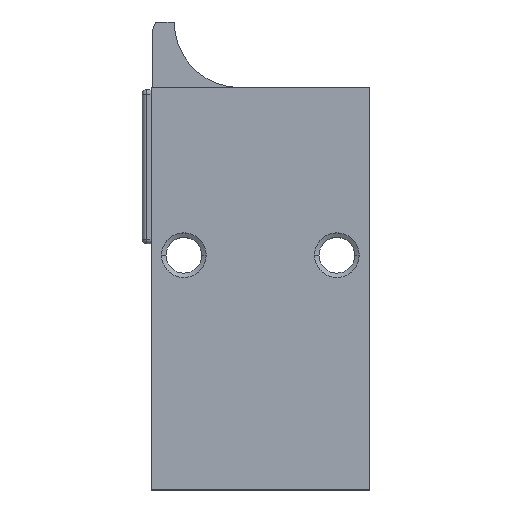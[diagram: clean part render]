
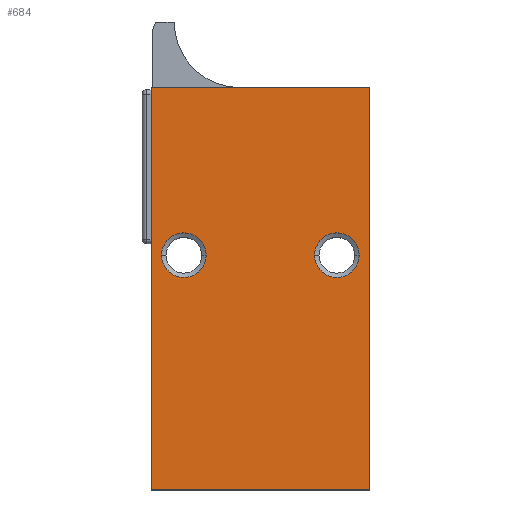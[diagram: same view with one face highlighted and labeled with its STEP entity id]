
A CAD part, top view. The second image highlights one B-rep face of the part: STEP entity #684.
In plain terms, the highlighted planar face has unit normal (0, 0, 1).
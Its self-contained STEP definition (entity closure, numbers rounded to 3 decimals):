
#26 = PLANE ( 'NONE',  #971 ) ;
#35 = CARTESIAN_POINT ( 'NONE',  ( 0., 92., 40. ) ) ;
#47 = DIRECTION ( 'NONE',  ( 0., -1., 0. ) ) ;
#56 = DIRECTION ( 'NONE',  ( 0., 0., -1. ) ) ;
#57 = DIRECTION ( 'NONE',  ( -1., 0., 0. ) ) ;
#64 = CARTESIAN_POINT ( 'NONE',  ( 0., 0., 40. ) ) ;
#280 = CARTESIAN_POINT ( 'NONE',  ( 0., 0., 40. ) ) ;
#327 = CARTESIAN_POINT ( 'NONE',  ( 12.6, 53.65, 40. ) ) ;
#370 = CARTESIAN_POINT ( 'NONE',  ( 50., 0., 40. ) ) ;
#380 = CARTESIAN_POINT ( 'NONE',  ( 47.6, 53.65, 40. ) ) ;
#416 = CARTESIAN_POINT ( 'NONE',  ( 2.4, 53.65, 40. ) ) ;
#497 = EDGE_CURVE ( 'NONE', #3406, #3649, #2737, .T. ) ;
#526 = EDGE_CURVE ( 'NONE', #3391, #3374, #2615, .T. ) ;
#545 = EDGE_CURVE ( 'NONE', #3649, #3406, #2735, .T. ) ;
#646 = EDGE_CURVE ( 'NONE', #3695, #3547, #3221, .T. ) ;
#677 = EDGE_CURVE ( 'NONE', #3374, #3794, #3856, .T. ) ;
#684 = ADVANCED_FACE ( 'NONE', ( #3872, #3873, #3879 ), #26, .F. ) ;
#800 = EDGE_LOOP ( 'NONE', ( #1298, #1386, #1375, #2451 ) ) ;
#862 = EDGE_LOOP ( 'NONE', ( #1539, #1493 ) ) ;
#884 = EDGE_CURVE ( 'NONE', #3547, #3695, #2602, .T. ) ;
#900 = AXIS2_PLACEMENT_3D ( 'NONE', #3676, #3790, #3848 ) ;
#913 = AXIS2_PLACEMENT_3D ( 'NONE', #3610, #3538, #3429 ) ;
#952 = AXIS2_PLACEMENT_3D ( 'NONE', #3510, #3640, #3397 ) ;
#971 = AXIS2_PLACEMENT_3D ( 'NONE', #35, #56, #57 ) ;
#1298 = ORIENTED_EDGE ( 'NONE', *, *, #677, .T. ) ;
#1351 = ORIENTED_EDGE ( 'NONE', *, *, #884, .F. ) ;
#1375 = ORIENTED_EDGE ( 'NONE', *, *, #1584, .T. ) ;
#1386 = ORIENTED_EDGE ( 'NONE', *, *, #2183, .T. ) ;
#1438 = AXIS2_PLACEMENT_3D ( 'NONE', #1845, #1844, #1840 ) ;
#1493 = ORIENTED_EDGE ( 'NONE', *, *, #497, .F. ) ;
#1539 = ORIENTED_EDGE ( 'NONE', *, *, #545, .F. ) ;
#1584 = EDGE_CURVE ( 'NONE', #3473, #3391, #1629, .T. ) ;
#1629 = LINE ( 'NONE', #1758, #1631 ) ;
#1631 = VECTOR ( 'NONE', #1769, 1000. ) ;
#1758 = CARTESIAN_POINT ( 'NONE',  ( 50., 0., 40. ) ) ;
#1769 = DIRECTION ( 'NONE',  ( 0., 1., 0. ) ) ;
#1840 = DIRECTION ( 'NONE',  ( 1., 0., 0. ) ) ;
#1844 = DIRECTION ( 'NONE',  ( 0., 0., 1. ) ) ;
#1845 = CARTESIAN_POINT ( 'NONE',  ( 7.5, 53.65, 40. ) ) ;
#1890 = CARTESIAN_POINT ( 'NONE',  ( 0., 0., 40. ) ) ;
#1891 = DIRECTION ( 'NONE',  ( 1., 0., 0. ) ) ;
#2048 = CARTESIAN_POINT ( 'NONE',  ( 37.4, 53.65, 40. ) ) ;
#2061 = CARTESIAN_POINT ( 'NONE',  ( 50., 92., 40. ) ) ;
#2123 = CARTESIAN_POINT ( 'NONE',  ( 0., 92., 40. ) ) ;
#2138 = VECTOR ( 'NONE', #1891, 1000. ) ;
#2148 = LINE ( 'NONE', #1890, #2138 ) ;
#2183 = EDGE_CURVE ( 'NONE', #3794, #3473, #2148, .T. ) ;
#2366 = ORIENTED_EDGE ( 'NONE', *, *, #646, .F. ) ;
#2451 = ORIENTED_EDGE ( 'NONE', *, *, #526, .T. ) ;
#2602 = CIRCLE ( 'NONE', #1438, 5.1 ) ;
#2615 = LINE ( 'NONE', #3713, #2709 ) ;
#2709 = VECTOR ( 'NONE', #3653, 1000. ) ;
#2735 = CIRCLE ( 'NONE', #913, 5.1 ) ;
#2737 = CIRCLE ( 'NONE', #900, 5.1 ) ;
#3221 = CIRCLE ( 'NONE', #952, 5.1 ) ;
#3283 = EDGE_LOOP ( 'NONE', ( #2366, #1351 ) ) ;
#3374 = VERTEX_POINT ( 'NONE', #2123 ) ;
#3391 = VERTEX_POINT ( 'NONE', #2061 ) ;
#3397 = DIRECTION ( 'NONE',  ( 1., 0., 0. ) ) ;
#3406 = VERTEX_POINT ( 'NONE', #2048 ) ;
#3429 = DIRECTION ( 'NONE',  ( 1., 0., 0. ) ) ;
#3473 = VERTEX_POINT ( 'NONE', #370 ) ;
#3510 = CARTESIAN_POINT ( 'NONE',  ( 7.5, 53.65, 40. ) ) ;
#3538 = DIRECTION ( 'NONE',  ( 0., 0., 1. ) ) ;
#3547 = VERTEX_POINT ( 'NONE', #416 ) ;
#3610 = CARTESIAN_POINT ( 'NONE',  ( 42.5, 53.65, 40. ) ) ;
#3640 = DIRECTION ( 'NONE',  ( 0., 0., 1. ) ) ;
#3649 = VERTEX_POINT ( 'NONE', #380 ) ;
#3653 = DIRECTION ( 'NONE',  ( -1., 0., 0. ) ) ;
#3676 = CARTESIAN_POINT ( 'NONE',  ( 42.5, 53.65, 40. ) ) ;
#3695 = VERTEX_POINT ( 'NONE', #327 ) ;
#3713 = CARTESIAN_POINT ( 'NONE',  ( 0., 92., 40. ) ) ;
#3790 = DIRECTION ( 'NONE',  ( 0., 0., 1. ) ) ;
#3794 = VERTEX_POINT ( 'NONE', #280 ) ;
#3848 = DIRECTION ( 'NONE',  ( 1., 0., 0. ) ) ;
#3856 = LINE ( 'NONE', #64, #3859 ) ;
#3859 = VECTOR ( 'NONE', #47, 1000. ) ;
#3872 = FACE_BOUND ( 'NONE', #862, .T. ) ;
#3873 = FACE_BOUND ( 'NONE', #3283, .T. ) ;
#3879 = FACE_OUTER_BOUND ( 'NONE', #800, .T. ) ;
